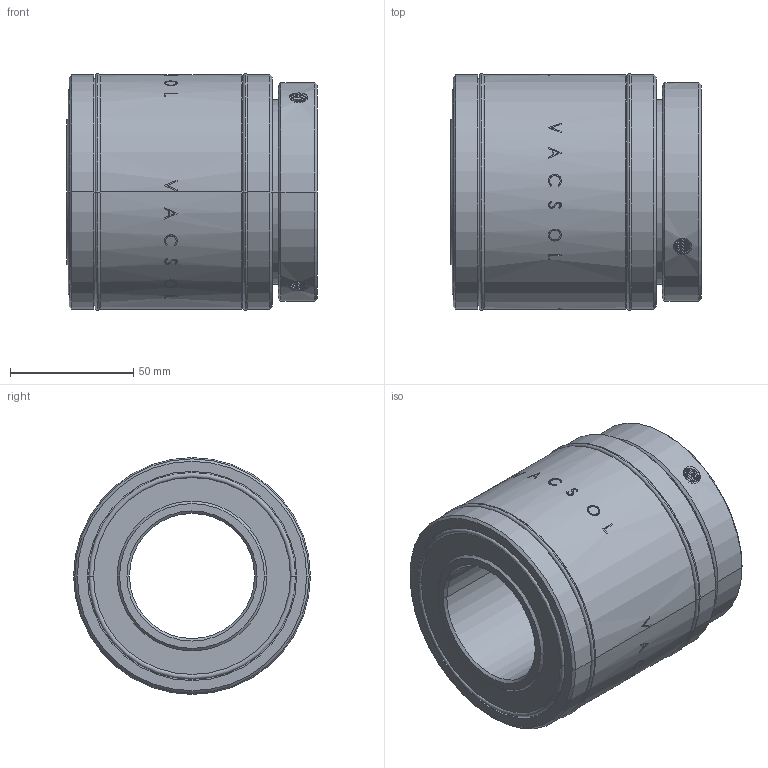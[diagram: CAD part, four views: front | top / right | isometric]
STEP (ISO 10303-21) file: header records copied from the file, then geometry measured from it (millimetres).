
FILE_DESCRIPTION (( 'STEP AP203' ), '1' );
FILE_NAME ('P65040.STEP', '2010-10-11T10:58:56', ( 'user' ), ( '' ), 'SwSTEP 2.0', 'SolidWorks 2007', '' );
FILE_SCHEMA (( 'CONFIG_CONTROL_DESIGN' ));
Length unit declared in the file: millimetre
Products named in the file (1): P65040
Bounding box: 101.74 x 96.2 x 96.2 mm (x, y, z)
Volume: 487646 mm3; surface area: 76622.2 mm2
Topology: 4 solids, 4 shells, 423 faces, 1134 edges, 748 vertices
Faces by surface type: cylinder 190, bspline 186, plane 21, cone 14, torus 12
Entity records: 34911 total; most frequent: CARTESIAN_POINT 26648, ORIENTED_EDGE 2268, EDGE_CURVE 1134, DIRECTION 868, VERTEX_POINT 748, B_SPLINE_CURVE_WITH_KNOTS 571, EDGE_LOOP 466, FACE_OUTER_BOUND 423
